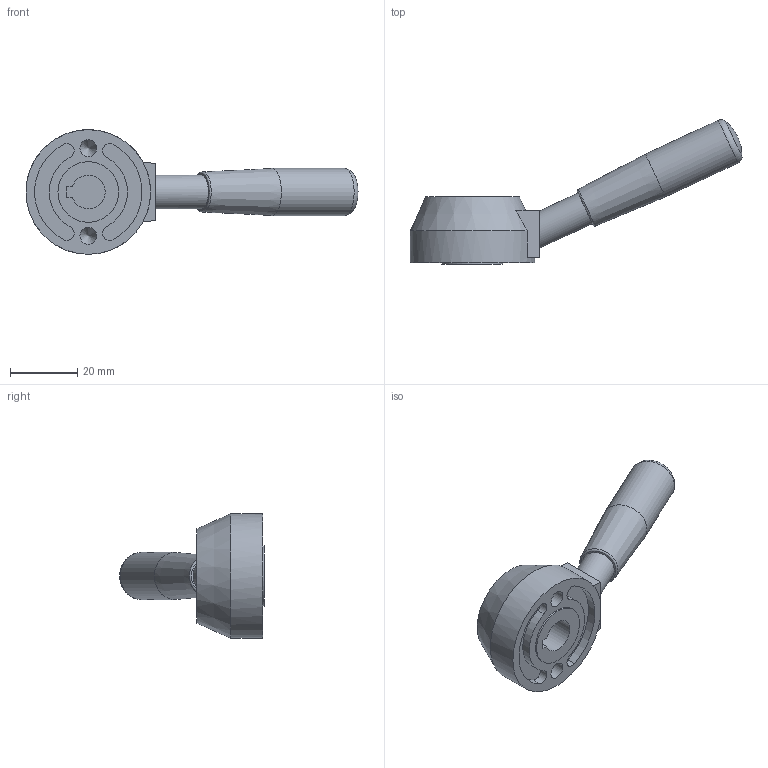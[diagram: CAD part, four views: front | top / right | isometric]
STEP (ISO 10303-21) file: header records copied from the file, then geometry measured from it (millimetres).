
FILE_DESCRIPTION( ( 'STEP AP203' ), '1' );
FILE_NAME( 'C:/Temp/Ganter_Step_05_03_2020/data/2_1/gn_512/gn_512_k/Control lever GN 512-37-K10.stp', '2020-03-05T11:51:39', ( 'License CC BY-ND 4.0' ), ( 'CADENAS' ), ' ', 'PARTsolutions', ' ' );
FILE_SCHEMA( ( 'CONFIG_CONTROL_DESIGN' ) );
Length unit declared in the file: millimetre
Products named in the file (1): _Control lever GN 512-37-K10
Bounding box: 98.59 x 42.95 x 37 mm (x, y, z)
Volume: 24740.9 mm3; surface area: 8197.6 mm2
Topology: 1 solids, 1 shells, 39 faces, 88 edges, 57 vertices
Faces by surface type: plane 16, cylinder 16, cone 4, torus 2, sphere 1
Full cylindrical faces by diameter (mm): 5 x2, 10 x1, 14 x1, 18 x1, 21 x1, 37 x1
Entity records: 1034 total; most frequent: DIRECTION 184, CARTESIAN_POINT 168, ORIENTED_EDGE 136, AXIS2_PLACEMENT_3D 78, EDGE_CURVE 68, EDGE_LOOP 59, VERTEX_POINT 54, FACE_OUTER_BOUND 48
